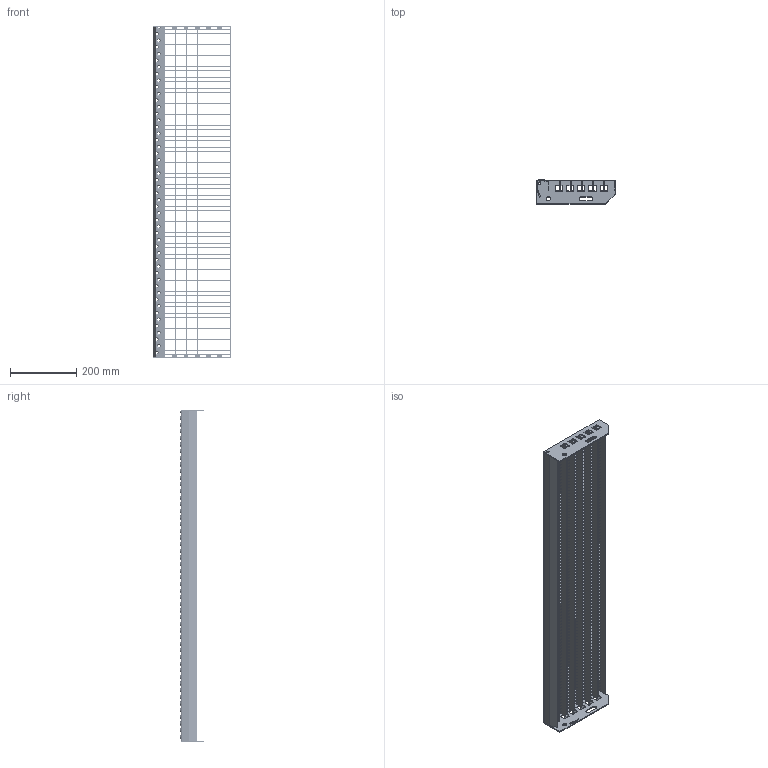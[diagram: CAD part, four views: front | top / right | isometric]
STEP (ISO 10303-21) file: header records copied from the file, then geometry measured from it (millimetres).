
FILE_DESCRIPTION(/* description */ ('','CAx-IF Rec.Pracs.---Representation and Presentation of Product Manufacturing Information (PMI)---3.8---2014-02-18'),/* implementation_level */ '2;1');
FILE_NAME(/* name */ 'C:\Users\phaverkotte\Desktop\Lager STEP\P-Stufen\PX42 230-33 11-2\PX42 230-33 11-2 1000mm x 240mm.stp',/* time_stamp */ '2018-03-24T10:56:11+01:00',/* author */ ('phaverkotte'),/* organization */ (''),/* preprocessor_version */ 'ST-DEVELOPER v16.13',/* originating_system */ 'Autodesk Inventor 2018',/* authorisation */ '');
FILE_SCHEMA (('AP242_MANAGED_MODEL_BASED_3D_ENGINEERING_MIM_LF { 1 0 10303 442 1 1 4 }'));
Length unit declared in the file: millimetre
Products named in the file (8): Schodišťový stupeň přím
ý lisovaný; Seitenplatte ausgeklinkt links; Seitenplatte 240 ausgeklinkt extern rechts; Schod nášlap; P Rošt schodu; Querstab; P Nosný pás; Hinteres Flach
Assembly tree (100 placements, depth 3):
  Schodišťový stupeň přím
ý lisovaný
    Seitenplatte ausgeklinkt links
    Seitenplatte 240 ausgeklinkt extern rechts
    Schod nášlap
    P Rošt schodu
      Querstab  x89
      P Nosný pás  x6
      Hinteres Flach
Bounding box: 236.98 x 72.75 x 1000 mm (x, y, z)
Volume: 943830.1 mm3; surface area: 1053903.3 mm2
Topology: 99 solids, 99 shells, 15968 faces, 47151 edges, 31398 vertices
Faces by surface type: plane 15636, cone 150, cylinder 112, torus 50, bspline 20
Full cylindrical faces by diameter (mm): 8 x2, 13 x2
Entity records: 39223 total; most frequent: CARTESIAN_POINT 9693, ORIENTED_EDGE 5816, DIRECTION 5782, EDGE_CURVE 2908, LINE 2386, VECTOR 2386, VERTEX_POINT 2003, AXIS2_PLACEMENT_3D 1698
